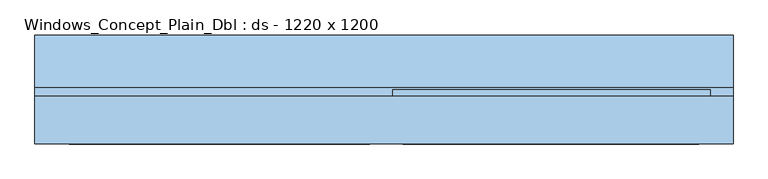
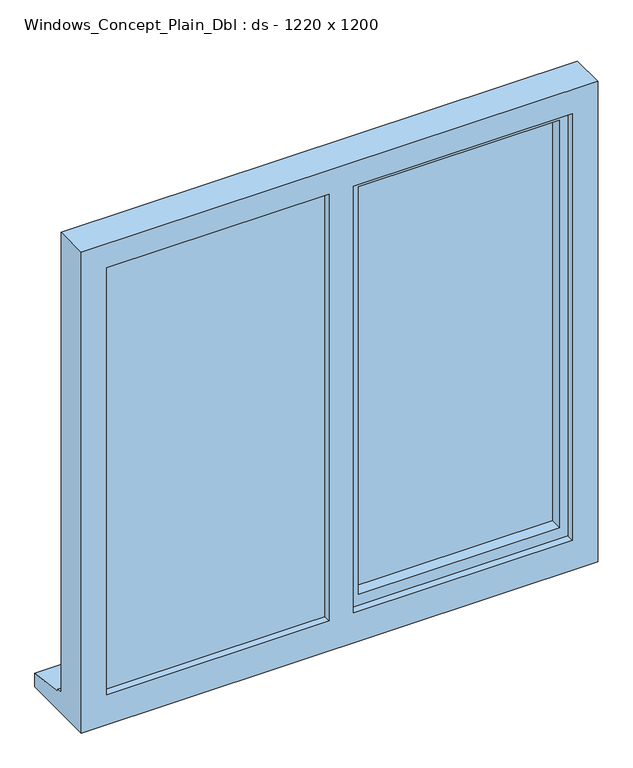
"""IFC4 building model written with IfcOpenShell, lengths in millimetres: window geometry, Windows_Concept_Plain_Dbl : ds - 1220 x 1200."""

from ifc_helpers import new_model, si_unit, frame, origin, place, context, project, spatial, polyline, outline, extrude, faceted_brep, source, transform, mapped, element, save


def windows_concept_plain_dbl_ds_1220_x_1200_8969c727(model_context):
    return source(origin(), model_context, "Body", "SolidModel", [
        extrude(outline(polyline([(255.0, 52.4565678), (-240.0, 52.4565678), (-240.0, 76.4565678), (255.0, 76.4565678), (255.0, 52.4565678)])), frame((0.0, 0.0, 1003.0), z_axis=(0.0, 0.0, 1.0), x_axis=(1.0, 0.0, 0.0)), (0.0, 0.0, 1.0), 1037.0),
        extrude(outline(polyline([(-855.0, 47.4565678), (-300.0, 47.4565678), (-300.0, 23.4565678), (-855.0, 23.4565678), (-855.0, 47.4565678)])), frame((0.0, 0.0, 973.0), z_axis=(0.0, 0.0, 1.0), x_axis=(1.0, 0.0, 0.0)), (0.0, 0.0, 1.0), 1097.0),
        faceted_brep([(325.0, 5.4565678, 2110.0), (-895.0, 5.4565678, 2110.0), (-895.0, 5.4565678, 910.0), (325.0, 5.4565678, 910.0), (265.0, 5.4565678, 2050.0), (265.0, 5.4565678, 985.0), (-252.0, 5.4565678, 985.0), (-252.0, 5.4565678, 2050.0), (-310.0, 5.4565678, 2050.0), (-310.0, 5.4565678, 985.0), (-835.0, 5.4565678, 985.0), (-835.0, 5.4565678, 2050.0), (-895.0, 88.4565678, 2110.0), (-895.0, 88.4565678, 961.0), (-895.0, 103.4565678, 959.68767), (-895.0, 103.4565678, 954.7449676), (-895.0, 195.9565678, 943.8088847), (-895.0, 195.9565678, 910.0), (325.0, 88.4565678, 2110.0), (325.0, 88.4565678, 961.0), (-855.0, 88.4565678, 2070.0), (-855.0, 88.4565678, 973.0), (-310.0, 88.4565678, 973.0), (-310.0, 88.4565678, 2070.0), (-270.0, 88.4565678, 2070.0), (-270.0, 88.4565678, 973.0), (285.0, 88.4565678, 973.0), (285.0, 88.4565678, 2070.0), (-855.0, 23.4565678, 2070.0), (-855.0, 23.4565678, 973.0), (-300.0, 23.4565678, 2070.0), (-300.0, 23.4565678, 973.0), (-310.0, 23.4565678, 2050.0), (-835.0, 23.4565678, 2050.0), (-835.0, 23.4565678, 985.0), (-310.0, 23.4565678, 985.0), (-270.0, 23.4565678, 2070.0), (285.0, 23.4565678, 2070.0), (285.0, 23.4565678, 973.0), (-270.0, 23.4565678, 973.0), (265.0, 23.4565678, 2050.0), (-252.0, 23.4565678, 2050.0), (-252.0, 23.4565678, 985.0), (265.0, 23.4565678, 985.0), (-310.0, 47.4565678, 2070.0), (-300.0, 47.4565678, 2070.0), (325.0, 195.9565678, 910.0), (325.0, 195.9565678, 943.8088847), (325.0, 103.4565678, 954.7449676), (325.0, 103.4565678, 959.68767), (-300.0, 47.4565678, 973.0), (-310.0, 47.4565678, 973.0)], [[[0, 1, 2, 3], [4, 5, 6, 7], [8, 9, 10, 11]], [[2, 1, 12, 13, 14, 15, 16, 17]], [[13, 12, 18, 19], [20, 21, 22, 23], [24, 25, 26, 27]], [[21, 20, 28, 29]], [[28, 30, 31, 29], [32, 33, 34, 35]], [[36, 37, 38, 39], [40, 41, 42, 43]], [[33, 11, 10, 34]], [[1, 0, 18, 12]], [[28, 20, 23, 44, 45, 30]], [[27, 37, 36, 24]], [[11, 33, 32, 8]], [[40, 4, 7, 41]], [[19, 18, 0, 3, 46, 47, 48, 49]], [[27, 26, 38, 37]], [[4, 40, 43, 5]], [[45, 50, 31, 30]], [[50, 45, 44, 51]], [[51, 44, 23, 22]], [[25, 24, 36, 39]], [[41, 7, 6, 42]], [[8, 32, 35, 9]], [[46, 3, 2, 17]], [[47, 46, 17, 16]], [[48, 47, 16, 15]], [[49, 48, 15, 14]], [[19, 49, 14, 13]], [[22, 21, 29, 31, 50, 51]], [[26, 25, 39, 38]], [[6, 5, 43, 42]], [[35, 34, 10, 9]]]),
        extrude(outline(polyline([(2050.0, -310.0), (2070.0, -310.0), (2070.0, -855.0), (973.0, -855.0), (973.0, -310.0), (993.0, -310.0), (993.0, -835.0), (2050.0, -835.0), (2050.0, -310.0)])), frame((0.0, 47.4565678, 0.0), z_axis=(0.0, 1.0, 0.0), x_axis=(0.0, 0.0, 1.0)), (0.0, 0.0, 1.0), 41.0),
        faceted_brep([(-270.0, 23.4565678, 2070.0), (-270.0, 100.0035732, 2070.0), (-270.0, 100.0035732, 973.0), (-270.0, 23.4565678, 973.0), (-230.0, 52.4565678, 2030.0), (-230.0, 23.4565678, 2030.0), (-230.0, 23.4565678, 1013.0), (-230.0, 52.4565678, 1013.0), (-240.0, 76.4565678, 2040.0), (-240.0, 52.4565678, 2040.0), (-240.0, 52.4565678, 1003.0), (-240.0, 76.4565678, 1003.0), (-230.0, 100.0035732, 2030.0), (-230.0, 76.4565678, 2030.0), (-230.0, 76.4565678, 1013.0), (-230.0, 100.0035732, 1013.0), (285.0, 100.0035732, 973.0), (285.0, 23.4565678, 973.0), (245.0, 23.4565678, 1013.0), (245.0, 52.4565678, 1013.0), (255.0, 52.4565678, 1003.0), (255.0, 76.4565678, 1003.0), (245.0, 76.4565678, 1013.0), (245.0, 100.0035732, 1013.0), (285.0, 100.0035732, 2070.0), (285.0, 23.4565678, 2070.0), (245.0, 23.4565678, 2030.0), (245.0, 52.4565678, 2030.0), (255.0, 52.4565678, 2040.0), (255.0, 76.4565678, 2040.0), (245.0, 76.4565678, 2030.0), (245.0, 100.0035732, 2030.0)], [[[0, 1, 2, 3]], [[4, 5, 6, 7]], [[8, 9, 10, 11]], [[12, 13, 14, 15]], [[3, 2, 16, 17]], [[7, 6, 18, 19]], [[11, 10, 20, 21]], [[15, 14, 22, 23]], [[17, 16, 24, 25]], [[19, 18, 26, 27]], [[21, 20, 28, 29]], [[23, 22, 30, 31]], [[1, 24, 16, 2], [15, 23, 31, 12]], [[25, 24, 1, 0]], [[3, 17, 25, 0], [5, 26, 18, 6]], [[27, 26, 5, 4]], [[9, 28, 20, 10], [7, 19, 27, 4]], [[29, 28, 9, 8]], [[11, 21, 29, 8], [13, 30, 22, 14]], [[31, 30, 13, 12]]]),
    ])


if __name__ == "__main__":
    model = new_model("IFC4")
    model_context = context("Model", 3, world=origin())
    ifc_project = project(units=[si_unit("LENGTHUNIT", "METRE", prefix="MILLI")], contexts=[model_context])
    site = spatial("IfcSite", under=ifc_project)
    building = spatial("IfcBuilding", under=site)
    placement = place(None, origin())
    windows_concept_plain_dbl_ds_1220_x_1200_shape = windows_concept_plain_dbl_ds_1220_x_1200_8969c727(model_context)
    element("IfcWindow", 1, ObjectType="Windows_Concept_Plain_Dbl : ds - 1220 x 1200", at=placement, inside=building, context=model_context, shape_type="MappedRepresentation", body=[
        mapped(windows_concept_plain_dbl_ds_1220_x_1200_shape, transform((0.0, 0.0, 0.0), x_axis=(1.0, 0.0, 0.0), y_axis=(0.0, 1.0, 0.0), z_axis=(0.0, 0.0, 1.0))),
    ])
    save(model, "model.ifc")
